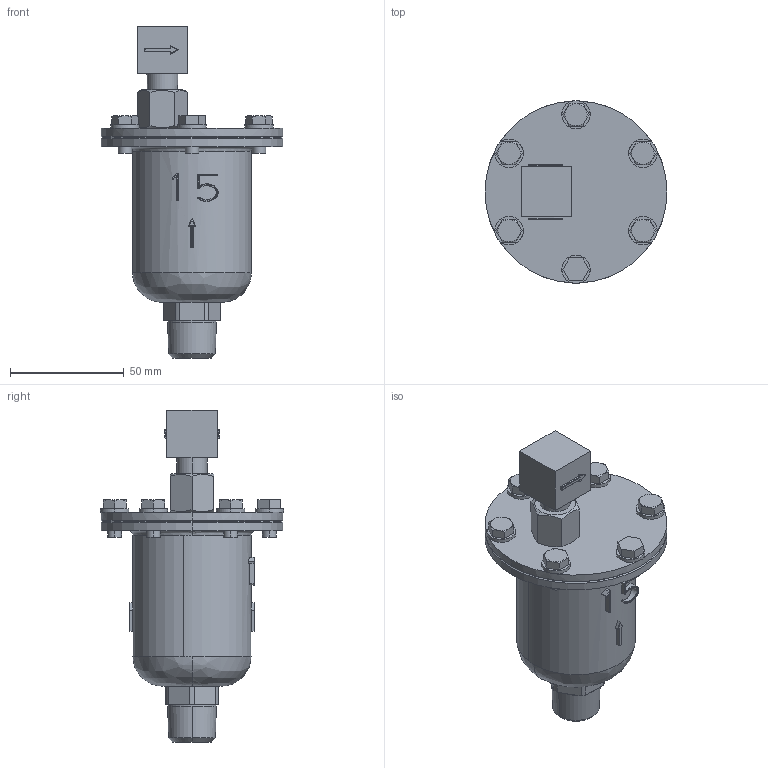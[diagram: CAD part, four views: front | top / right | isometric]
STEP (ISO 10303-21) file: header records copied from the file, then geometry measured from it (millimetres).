
FILE_DESCRIPTION( (''), '2;1');
FILE_NAME ('PC1056.968.TA-16CVA(15A)_19093.stp','2024-08-29T09:46:27',(''),(''),'spGate 19.8.4 (****-****-****-****)','','');
FILE_SCHEMA (('AUTOMOTIVE_DESIGN'));
Length unit declared in the file: millimetre
Bounding box: 80 x 80.5 x 146 mm (x, y, z)
Volume: 207297.6 mm3; surface area: 31035.2 mm2
Topology: 1 solids, 1 shells, 257 faces, 619 edges, 390 vertices
Faces by surface type: plane 128, cylinder 84, bspline 45
Entity records: 13666 total; most frequent: CARTESIAN_POINT 3124, ORIENTED_EDGE 1238, DIRECTION 1020, COLOUR_RGB 877, PRESENTATION_STYLE_ASSIGNMENT 877, STYLED_ITEM 877, EDGE_CURVE 619, DRAUGHTING_PRE_DEFINED_CURVE_FONT 619
